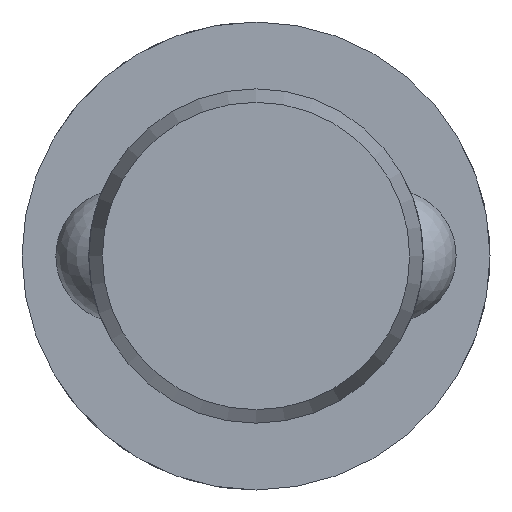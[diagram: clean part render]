
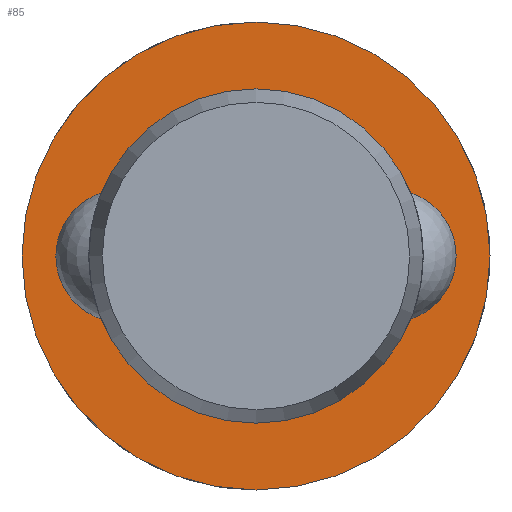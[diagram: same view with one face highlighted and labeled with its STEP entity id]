
A CAD part, left-side view. The second image highlights one B-rep face of the part: STEP entity #85.
In plain terms, the highlighted planar face has unit normal (-1, 0, 0).
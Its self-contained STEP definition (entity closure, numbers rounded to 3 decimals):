
#85 = ADVANCED_FACE( '', ( #130, #131 ), #132, .F. );
#130 = FACE_OUTER_BOUND( '', #200, .T. );
#131 = FACE_BOUND( '', #201, .T. );
#132 = PLANE( '', #202 );
#200 = EDGE_LOOP( '', ( #315 ) );
#201 = EDGE_LOOP( '', ( #316 ) );
#202 = AXIS2_PLACEMENT_3D( '', #317, #318, #319 );
#315 = ORIENTED_EDGE( '', *, *, #458, .F. );
#316 = ORIENTED_EDGE( '', *, *, #455, .T. );
#317 = CARTESIAN_POINT( '', ( 49.6, 5., 0. ) );
#318 = DIRECTION( '', ( 1., 0., 0. ) );
#319 = DIRECTION( '', ( 0., 0., -1. ) );
#455 = EDGE_CURVE( '', #528, #528, #529, .T. );
#458 = EDGE_CURVE( '', #534, #534, #535, .T. );
#528 = VERTEX_POINT( '', #732 );
#529 = CIRCLE( '', #733, 5. );
#534 = VERTEX_POINT( '', #844 );
#535 = CIRCLE( '', #845, 7. );
#732 = CARTESIAN_POINT( '', ( 49.6, 0., -5. ) );
#733 = AXIS2_PLACEMENT_3D( '', #922, #923, #924 );
#844 = CARTESIAN_POINT( '', ( 49.6, 0., -7. ) );
#845 = AXIS2_PLACEMENT_3D( '', #925, #926, #927 );
#922 = CARTESIAN_POINT( '', ( 49.6, 0., 0. ) );
#923 = DIRECTION( '', ( 1., 0., 0. ) );
#924 = DIRECTION( '', ( 0., 0., -1. ) );
#925 = CARTESIAN_POINT( '', ( 49.6, 0., 0. ) );
#926 = DIRECTION( '', ( 1., 0., 0. ) );
#927 = DIRECTION( '', ( 0., 0., -1. ) );
